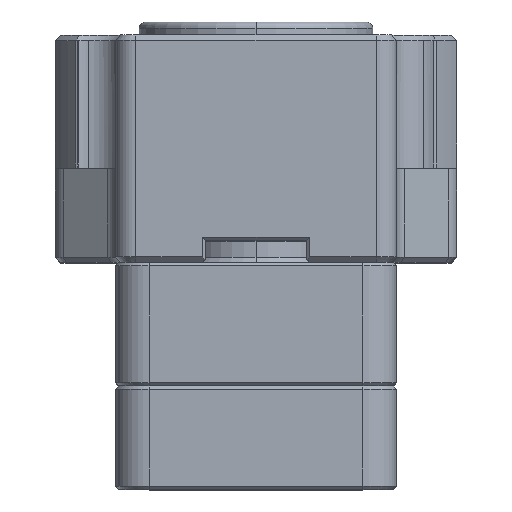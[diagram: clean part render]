
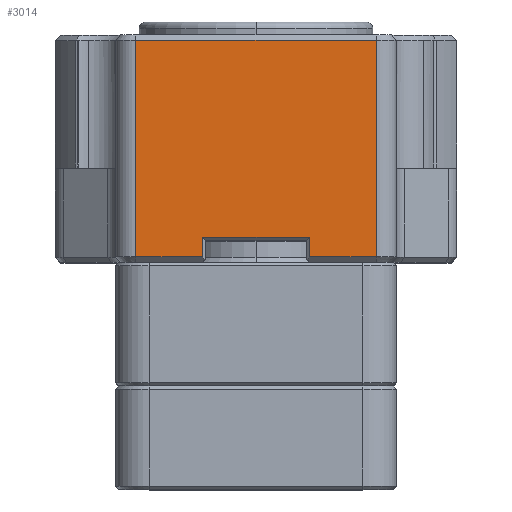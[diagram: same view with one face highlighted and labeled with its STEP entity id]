
A CAD part, top view. The second image highlights one B-rep face of the part: STEP entity #3014.
In plain terms, the highlighted planar face has unit normal (0, 0, 1).
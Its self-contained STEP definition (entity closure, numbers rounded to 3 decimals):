
#100 = CARTESIAN_POINT ( 'NONE',  ( -8., 34., 53. ) ) ;
#218 = DIRECTION ( 'NONE',  ( 0., 1., 0. ) ) ;
#813 = EDGE_CURVE ( 'NONE', #5386, #9528, #8309, .T. ) ;
#1386 = EDGE_CURVE ( 'NONE', #9129, #2071, #3869, .T. ) ;
#1484 = VERTEX_POINT ( 'NONE', #4679 ) ;
#1730 = DIRECTION ( 'NONE',  ( -1., 0., 0. ) ) ;
#1796 = EDGE_CURVE ( 'NONE', #1484, #2321, #10945, .T. ) ;
#1851 = CARTESIAN_POINT ( 'NONE',  ( -18., 33.2, 53. ) ) ;
#2028 = EDGE_CURVE ( 'NONE', #2321, #9129, #11338, .T. ) ;
#2071 = VERTEX_POINT ( 'NONE', #10404 ) ;
#2104 = EDGE_CURVE ( 'NONE', #2071, #9528, #12637, .T. ) ;
#2199 = CARTESIAN_POINT ( 'NONE',  ( 8., 3.7, 53. ) ) ;
#2242 = EDGE_CURVE ( 'NONE', #3172, #1484, #4453, .T. ) ;
#2321 = VERTEX_POINT ( 'NONE', #2914 ) ;
#2914 = CARTESIAN_POINT ( 'NONE',  ( -8., 3.7, 53. ) ) ;
#2922 = VECTOR ( 'NONE', #1730, 1000. ) ;
#3014 = ADVANCED_FACE ( 'NONE', ( #10749 ), #9010, .F. ) ;
#3082 = LINE ( 'NONE', #1851, #2922 ) ;
#3172 = VERTEX_POINT ( 'NONE', #9383 ) ;
#3692 = DIRECTION ( 'NONE',  ( 0., -1., 0. ) ) ;
#3827 = VECTOR ( 'NONE', #5625, 1000. ) ;
#3869 = LINE ( 'NONE', #5725, #3827 ) ;
#4118 = CARTESIAN_POINT ( 'NONE',  ( 18., 34., 53. ) ) ;
#4453 = LINE ( 'NONE', #5301, #6490 ) ;
#4486 = CARTESIAN_POINT ( 'NONE',  ( 18., 33.2, 53. ) ) ;
#4679 = CARTESIAN_POINT ( 'NONE',  ( -8., 0.8, 53. ) ) ;
#4787 = ORIENTED_EDGE ( 'NONE', *, *, #2028, .T. ) ;
#5301 = CARTESIAN_POINT ( 'NONE',  ( 18., 0.8, 53. ) ) ;
#5386 = VERTEX_POINT ( 'NONE', #4486 ) ;
#5488 = DIRECTION ( 'NONE',  ( 1., 0., 0. ) ) ;
#5625 = DIRECTION ( 'NONE',  ( 0., -1., 0. ) ) ;
#5725 = CARTESIAN_POINT ( 'NONE',  ( 8., 34., 53. ) ) ;
#6361 = ORIENTED_EDGE ( 'NONE', *, *, #1386, .T. ) ;
#6480 = VERTEX_POINT ( 'NONE', #10901 ) ;
#6490 = VECTOR ( 'NONE', #5488, 1000. ) ;
#7314 = ORIENTED_EDGE ( 'NONE', *, *, #2104, .T. ) ;
#7968 = AXIS2_PLACEMENT_3D ( 'NONE', #8327, #8232, #8115 ) ;
#8031 = VECTOR ( 'NONE', #3692, 1000. ) ;
#8115 = DIRECTION ( 'NONE',  ( -1., 0., 0. ) ) ;
#8232 = DIRECTION ( 'NONE',  ( 0., 0., -1. ) ) ;
#8309 = LINE ( 'NONE', #4118, #8031 ) ;
#8327 = CARTESIAN_POINT ( 'NONE',  ( 18., 34., 53. ) ) ;
#8614 = ORIENTED_EDGE ( 'NONE', *, *, #813, .F. ) ;
#8849 = CARTESIAN_POINT ( 'NONE',  ( 18., 0.8, 53. ) ) ;
#9010 = PLANE ( 'NONE',  #7968 ) ;
#9024 = ORIENTED_EDGE ( 'NONE', *, *, #9195, .T. ) ;
#9129 = VERTEX_POINT ( 'NONE', #2199 ) ;
#9140 = DIRECTION ( 'NONE',  ( 1., 0., 0. ) ) ;
#9195 = EDGE_CURVE ( 'NONE', #5386, #6480, #3082, .T. ) ;
#9383 = CARTESIAN_POINT ( 'NONE',  ( -18., 0.8, 53. ) ) ;
#9528 = VERTEX_POINT ( 'NONE', #10036 ) ;
#9585 = ORIENTED_EDGE ( 'NONE', *, *, #10045, .T. ) ;
#10036 = CARTESIAN_POINT ( 'NONE',  ( 18., 0.8, 53. ) ) ;
#10045 = EDGE_CURVE ( 'NONE', #6480, #3172, #11773, .T. ) ;
#10184 = ORIENTED_EDGE ( 'NONE', *, *, #2242, .T. ) ;
#10404 = CARTESIAN_POINT ( 'NONE',  ( 8., 0.8, 53. ) ) ;
#10749 = FACE_OUTER_BOUND ( 'NONE', #11931, .T. ) ;
#10782 = DIRECTION ( 'NONE',  ( 1., 0., 0. ) ) ;
#10901 = CARTESIAN_POINT ( 'NONE',  ( -18., 33.2, 53. ) ) ;
#10945 = LINE ( 'NONE', #100, #11348 ) ;
#10973 = DIRECTION ( 'NONE',  ( 0., -1., 0. ) ) ;
#11076 = CARTESIAN_POINT ( 'NONE',  ( 7.5, 3.7, 53. ) ) ;
#11161 = CARTESIAN_POINT ( 'NONE',  ( -18., 34., 53. ) ) ;
#11338 = LINE ( 'NONE', #11076, #12286 ) ;
#11348 = VECTOR ( 'NONE', #218, 1000. ) ;
#11580 = ORIENTED_EDGE ( 'NONE', *, *, #1796, .T. ) ;
#11764 = VECTOR ( 'NONE', #10973, 1000. ) ;
#11773 = LINE ( 'NONE', #11161, #11764 ) ;
#11931 = EDGE_LOOP ( 'NONE', ( #4787, #6361, #7314, #8614, #9024, #9585, #10184, #11580 ) ) ;
#12286 = VECTOR ( 'NONE', #10782, 1000. ) ;
#12637 = LINE ( 'NONE', #8849, #12715 ) ;
#12715 = VECTOR ( 'NONE', #9140, 1000. ) ;
